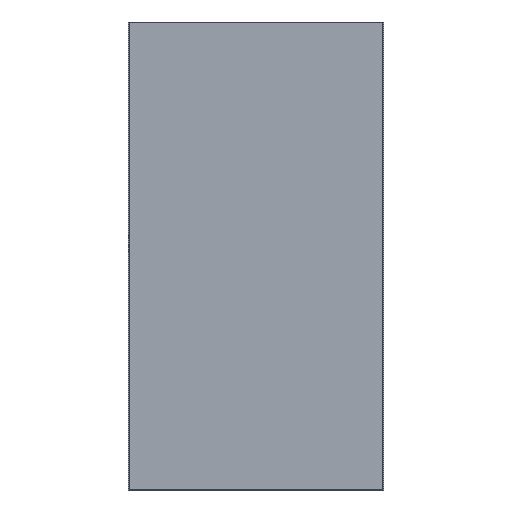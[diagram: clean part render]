
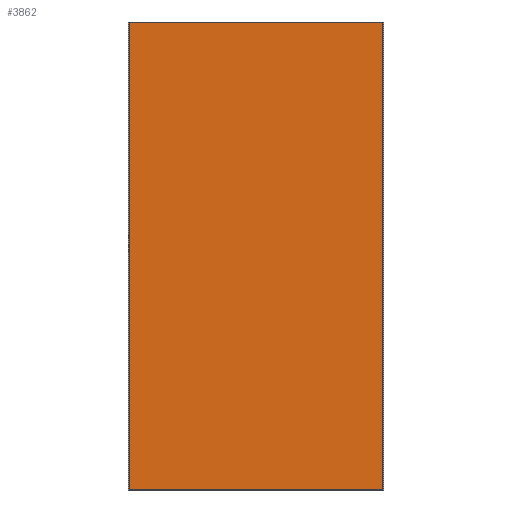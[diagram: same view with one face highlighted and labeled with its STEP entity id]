
A CAD part, front view. The second image highlights one B-rep face of the part: STEP entity #3862.
In plain terms, the highlighted planar face has unit normal (0, -1, 0).
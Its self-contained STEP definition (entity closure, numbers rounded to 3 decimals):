
#1447=DIRECTION('',(1.,0.,0.));
#1448=VECTOR('',#1447,29.8);
#1449=CARTESIAN_POINT('',(-14.9,-43.5,-54.9));
#1450=LINE('',#1449,#1448);
#1454=DIRECTION('',(0.,0.,-1.));
#1455=VECTOR('',#1454,54.8);
#1456=CARTESIAN_POINT('',(-14.9,-43.5,-0.1));
#1457=LINE('',#1456,#1455);
#1461=DIRECTION('',(-1.,0.,0.));
#1462=VECTOR('',#1461,29.8);
#1463=CARTESIAN_POINT('',(14.9,-43.5,-0.1));
#1464=LINE('',#1463,#1462);
#1468=DIRECTION('',(0.,0.,1.));
#1469=VECTOR('',#1468,54.8);
#1470=CARTESIAN_POINT('',(14.9,-43.5,-54.9));
#1471=LINE('',#1470,#1469);
#1559=CARTESIAN_POINT('',(-14.9,-43.5,-54.9));
#1560=CARTESIAN_POINT('',(14.9,-43.5,-54.9));
#1561=VERTEX_POINT('',#1559);
#1562=VERTEX_POINT('',#1560);
#1563=CARTESIAN_POINT('',(14.9,-43.5,-0.1));
#1564=VERTEX_POINT('',#1563);
#1565=CARTESIAN_POINT('',(-14.9,-43.5,-0.1));
#1566=VERTEX_POINT('',#1565);
#3851=CARTESIAN_POINT('',(0.,-43.5,0.));
#3852=DIRECTION('',(0.,-1.,0.));
#3853=DIRECTION('',(1.,0.,0.));
#3854=AXIS2_PLACEMENT_3D('',#3851,#3852,#3853);
#3855=PLANE('',#3854);
#3856=ORIENTED_EDGE('',*,*,#3755,.F.);
#3857=ORIENTED_EDGE('',*,*,#3782,.F.);
#3858=ORIENTED_EDGE('',*,*,#3808,.F.);
#3859=ORIENTED_EDGE('',*,*,#3833,.F.);
#3860=EDGE_LOOP('',(#3856,#3857,#3858,#3859));
#3861=FACE_OUTER_BOUND('',#3860,.F.);
#3862=ADVANCED_FACE('',(#3861),#3855,.T.);
#3755=EDGE_CURVE('',#1561,#1562,#1450,.T.);
#3782=EDGE_CURVE('',#1566,#1561,#1457,.T.);
#3808=EDGE_CURVE('',#1564,#1566,#1464,.T.);
#3833=EDGE_CURVE('',#1562,#1564,#1471,.T.);
